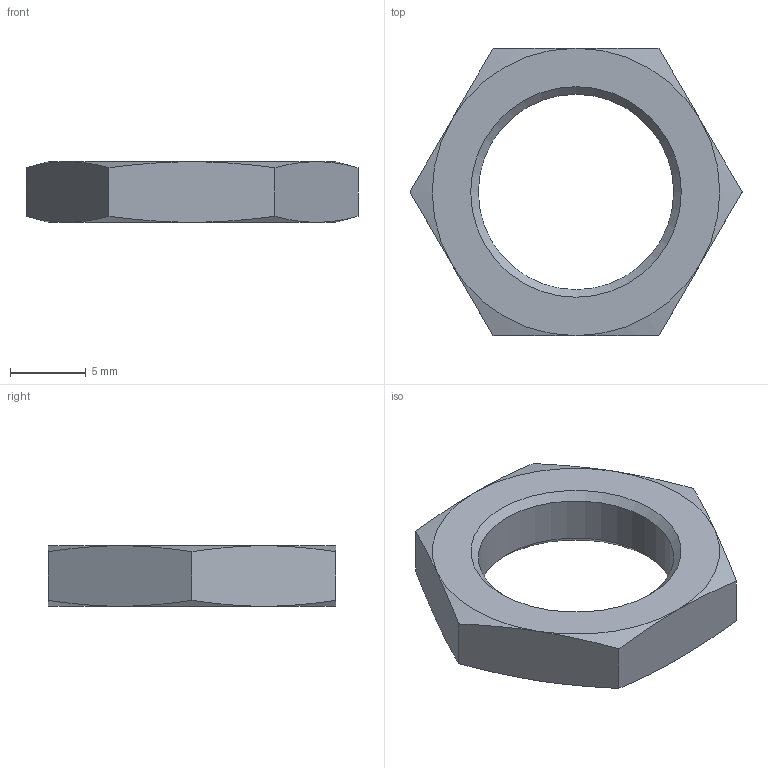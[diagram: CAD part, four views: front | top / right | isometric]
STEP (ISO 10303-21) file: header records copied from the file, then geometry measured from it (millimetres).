
FILE_DESCRIPTION( ( 'STEP AP214' ), '1' );
FILE_NAME( 'N:/Engineering/CAD_Solid/Wirbelstrom/Wirbelstromsensoren/Muttern/Mutter_M14x1.stp', '2011-12-15T12:05:52', ( ' ' ), ( ' ' ), 'XStep 1.0', ' ', ' ' );
FILE_SCHEMA( ( 'CONFIG_CONTROL_DESIGN) ( )' ) );
Length unit declared in the file: metre
Products named in the file (1): 1
Bounding box: 21.94 x 19 x 4 mm (x, y, z)
Volume: 709 mm3; surface area: 749.9 mm2
Topology: 1 solids, 1 shells, 23 faces, 49 edges, 28 vertices
Faces by surface type: cone 14, plane 8, cylinder 1
Full cylindrical faces by diameter (mm): 12.917 x1
Entity records: 868 total; most frequent: CARTESIAN_POINT 218, ORIENTED_EDGE 92, DIRECTION 86, EDGE_CURVE 46, AXIS2_PLACEMENT_3D 40, EDGE_LOOP 28, VERTEX_POINT 28, FACE_OUTER_BOUND 24
